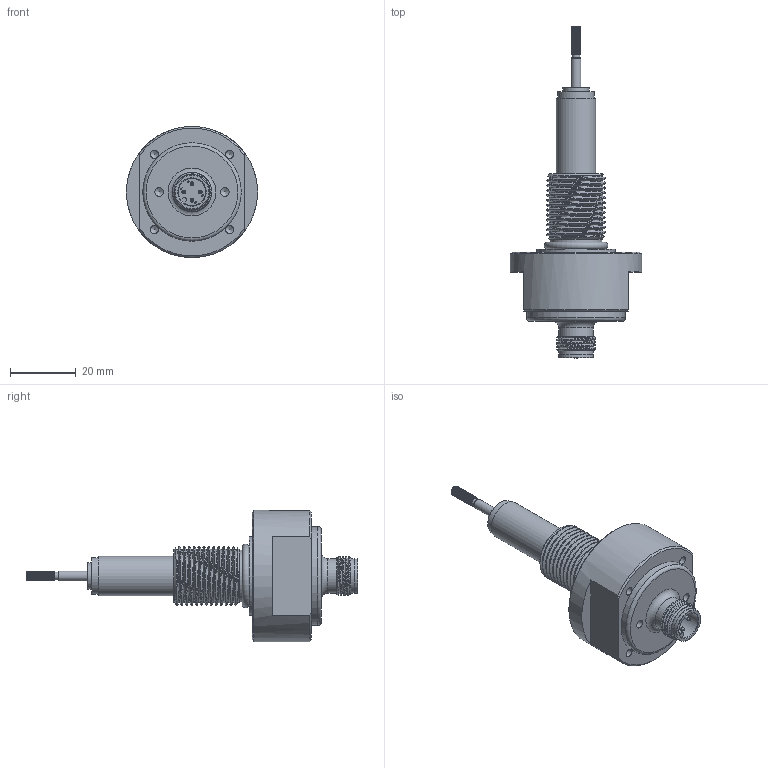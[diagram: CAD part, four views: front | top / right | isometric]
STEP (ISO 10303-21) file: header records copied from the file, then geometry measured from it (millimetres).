
FILE_DESCRIPTION( ( 'Unknown' ), '1' );
FILE_NAME( 'N:/Engineering/CAD/LVDT/HYD/Kunden-3D-Modell/SM2-HYD-18-S-M12.stp', 'Unknown', ( 'Unknown' ), ( 'Unknown' ), 'PSStep 17.0.49', 'Unknown', ' ' );
FILE_SCHEMA( ( 'AUTOMOTIVE_DESIGN { 1 0 10303 214 1 1 1 1 }' ) );
Length unit declared in the file: millimetre
Products named in the file (11): Einbaustecker_Waycon; Einbausteckverbinder_Waycon; Kontaktstift_M12; Assem1; Endkappe; Innenrohr_SM5-HYD; Kernverlängerung_SM5-HYD; SM-HYD-Flansch_M18_vereinfacht; O-Ring_15,4x2,1; Endkappe_HYD-KA_vereinfacht; Aussenrohr_SM2-HYD_vereinfacht
Assembly tree (13 placements, depth 3):
  Assem1
    Endkappe
    Innenrohr_SM5-HYD
    Kernverlängerung_SM5-HYD
    SM-HYD-Flansch_M18_vereinfacht
    O-Ring_15,4x2,1
    Endkappe_HYD-KA_vereinfacht
    Aussenrohr_SM2-HYD_vereinfacht
    Einbaustecker_Waycon
      Einbausteckverbinder_Waycon
      Kontaktstift_M12  x4
Bounding box: 40 x 101.2 x 40 mm (x, y, z)
Volume: 33770.6 mm3; surface area: 17283.1 mm2
Topology: 12 solids, 12 shells, 261 faces, 583 edges, 383 vertices
Faces by surface type: plane 122, cylinder 68, cone 37, extrusion 18, bspline 8, torus 8
Full cylindrical faces by diameter (mm): 0.5 x4, 1 x12, 1.2 x8, 1.8 x4, 2.013 x1, 2.4 x1, 2.5 x4, 2.6 x2, 3 x1, 4 x1, 6 x2, 8 x2, 8.2 x1, 8.3 x1, 9 x1, 9.35 x1, 9.55 x1, 10 x1, 10.05 x1, 10.5 x1, 10.6 x2, 11 x2, 12 x2, 15.8 x1, 22.5 x1, 24 x2, 30 x1, 40 x1
Entity records: 14294 total; most frequent: CARTESIAN_POINT 7955, DIRECTION 870, ORIENTED_EDGE 796, EDGE_CURVE 398, EDGE_LOOP 331, AXIS2_PLACEMENT_3D 327, VERTEX_POINT 309, FACE_OUTER_BOUND 264
